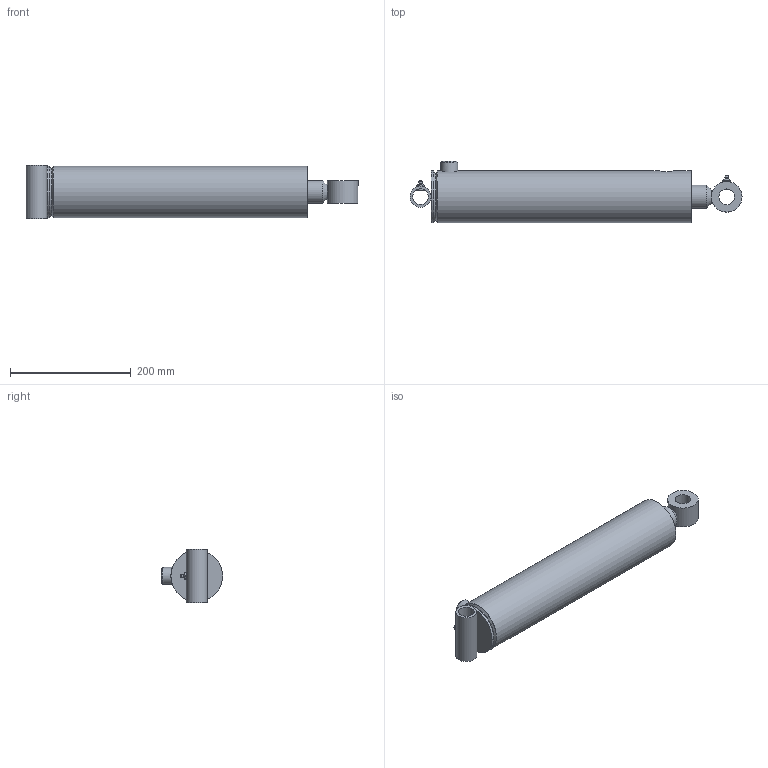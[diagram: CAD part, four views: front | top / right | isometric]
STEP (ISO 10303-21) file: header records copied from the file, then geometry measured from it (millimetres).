
FILE_DESCRIPTION((''),'2;1');
FILE_NAME('\\SRVR-ENG\EngSales\PMC-8312.stp','2012-09-04T14:53:09',('KneiflD'),(''),'Autodesk Inventor 2012','Autodesk Inventor 2012','');
FILE_SCHEMA(('AUTOMOTIVE_DESIGN { 1 0 10303 214 1 1 1 1 }'));
Length unit declared in the file: inch
Products named in the file (15): PMC-8312; 06150048; 05150066; 161500007V; 210400412V; 200014403V; 081500401V; 020800281iam; 010800812; 210400528V; 071500021V; 230001300V; 200018003V; 270010002V; 220000210
Assembly tree (16 placements, depth 3):
  PMC-8312
    06150048
      05150066
      161500007V
      210400412V
      200014403V
    081500401V
    020800281iam
      010800812
      210400528V
    071500021V
    230001300V
    200018003V  x2
    270010002V  x2
    220000210
Bounding box: 550.88 x 101.6 x 88.9 mm (x, y, z)
Volume: 1429880.3 mm3; surface area: 389472.5 mm2
Topology: 14 solids, 14 shells, 205 faces, 410 edges, 247 vertices
Faces by surface type: plane 94, cylinder 53, cone 30, torus 18, bspline 8, sphere 2
Full cylindrical faces by diameter (mm): 1.524 x2, 2.794 x2, 5.486 x1, 8.839 x1, 9.08 x2, 12.7 x1, 17.463 x1, 17.475 x1, 23.444 x1, 23.825 x1, 25.349 x1, 25.476 x1, 25.908 x1, 26.162 x1, 27.94 x1, 28.575 x1, 34.925 x1, 38.1 x1, 38.176 x2, 41.91 x1, 46.025 x1, 47.625 x1, 49.2 x1, 50.8 x1, 55.55 x1, 59.69 x1, 66.802 x1, 67.564 x1, 68.072 x1, 71.425 x1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
Entity records: 5237 total; most frequent: CARTESIAN_POINT 1650, DIRECTION 721, ORIENTED_EDGE 480, AXIS2_PLACEMENT_3D 333, EDGE_LOOP 295, EDGE_CURVE 240, VERTEX_POINT 191, FACE_OUTER_BOUND 170
